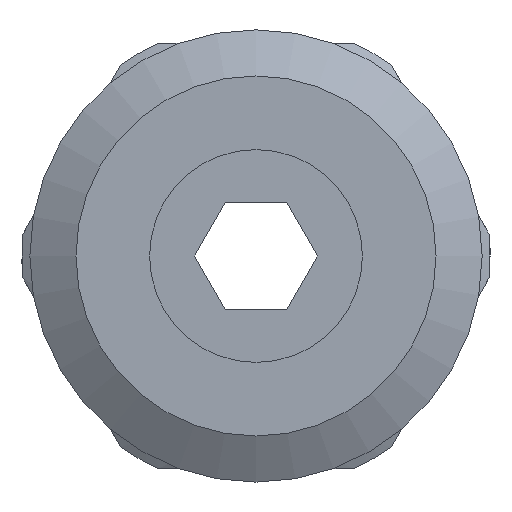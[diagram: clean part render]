
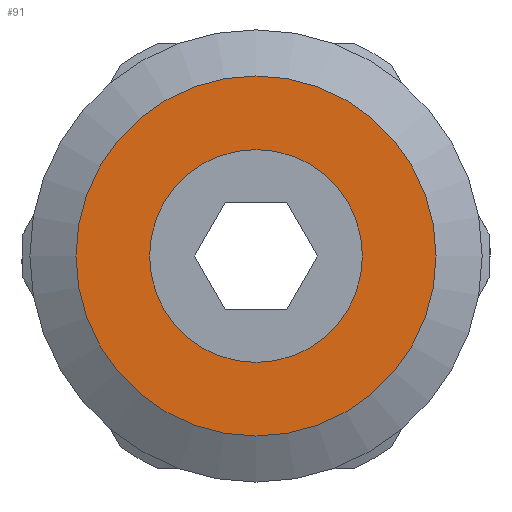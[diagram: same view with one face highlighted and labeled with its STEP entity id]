
A CAD part, left-side view. The second image highlights one B-rep face of the part: STEP entity #91.
In plain terms, the highlighted planar face has unit normal (-1, 0, 0).
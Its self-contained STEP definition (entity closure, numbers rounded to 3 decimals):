
#91=ADVANCED_FACE('',(#225,#226),#227,.F.);
#225=FACE_OUTER_BOUND('',#414,.T.);
#226=FACE_BOUND('',#415,.T.);
#227=PLANE('',#416);
#414=EDGE_LOOP('',(#627));
#415=EDGE_LOOP('',(#628));
#416=AXIS2_PLACEMENT_3D('',#629,#630,#631);
#627=ORIENTED_EDGE('',*,*,#1012,.F.);
#628=ORIENTED_EDGE('',*,*,#1013,.T.);
#629=CARTESIAN_POINT('',(0.0,0.0,0.0));
#630=DIRECTION('',(1.0,0.0,0.0));
#631=DIRECTION('',(0.0,1.0,0.0));
#1012=EDGE_CURVE('',#1185,#1185,#1186,.T.);
#1013=EDGE_CURVE('',#1187,#1187,#1188,.T.);
#1185=VERTEX_POINT('',#1432);
#1186=CIRCLE('',#1433,3.384);
#1187=VERTEX_POINT('',#1434);
#1188=CIRCLE('',#1435,2.0);
#1432=CARTESIAN_POINT('',(0.0,0.0,-3.384));
#1433=AXIS2_PLACEMENT_3D('',#1778,#1779,#1780);
#1434=CARTESIAN_POINT('',(0.0,0.0,-2.0));
#1435=AXIS2_PLACEMENT_3D('',#1781,#1782,#1783);
#1778=CARTESIAN_POINT('',(0.0,0.0,0.0));
#1779=DIRECTION('',(1.0,0.0,0.0));
#1780=DIRECTION('',(0.0,0.0,-1.0));
#1781=CARTESIAN_POINT('',(0.0,0.0,0.0));
#1782=DIRECTION('',(1.0,0.0,0.0));
#1783=DIRECTION('',(0.0,0.0,-1.0));
